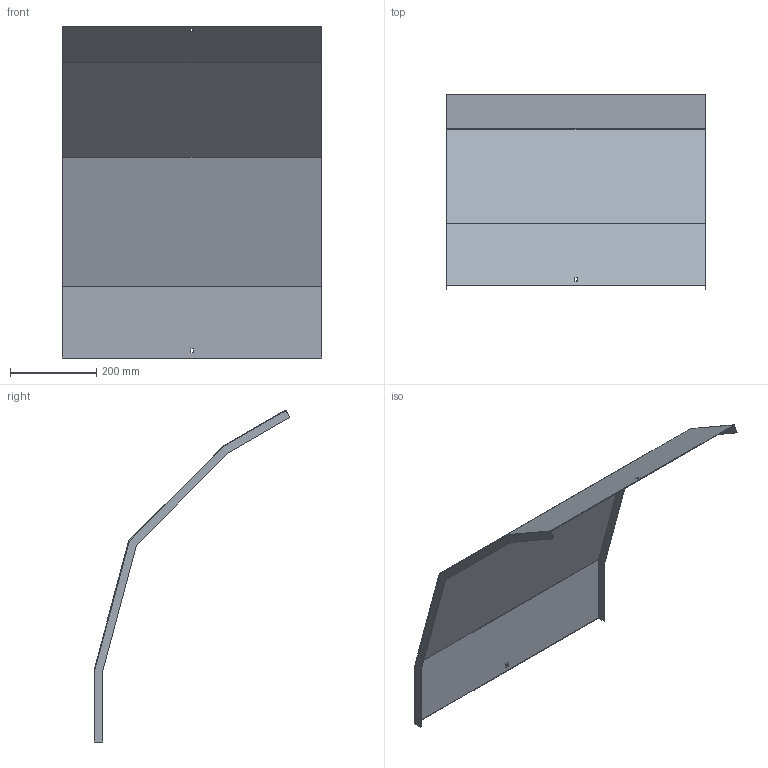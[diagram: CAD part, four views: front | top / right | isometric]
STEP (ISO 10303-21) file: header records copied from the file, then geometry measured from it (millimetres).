
FILE_DESCRIPTION (( 'STEP AP214' ), '1' );
FILE_NAME ('41N5J600.step', '2025-02-21T10:38:50', ( '' ), ( '' ), 'SwSTEP 2.0', 'SolidWorks 2023', '' );
FILE_SCHEMA (( 'AUTOMOTIVE_DESIGN' ));
Length unit declared in the file: millimetre
Products named in the file (1): 41N5J600
Bounding box: 603 x 454.7 x 770.25 mm (x, y, z)
Volume: 915510 mm3; surface area: 1225497.3 mm2
Topology: 1 solids, 1 shells, 30 faces, 84 edges, 56 vertices
Faces by surface type: plane 30
Entity records: 979 total; most frequent: CARTESIAN_POINT 171, ORIENTED_EDGE 168, DIRECTION 146, LINE 84, VECTOR 84, EDGE_CURVE 84, VERTEX_POINT 56, EDGE_LOOP 34
